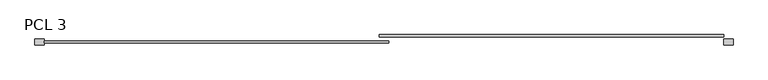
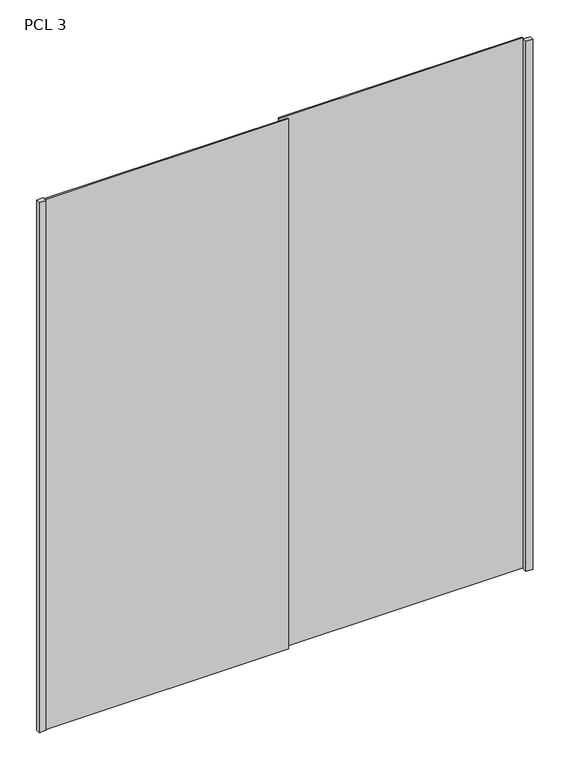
"""IFC4 building model written with IfcOpenShell, lengths in millimetres: furniture geometry, Puerta Closet corre 2 hojas : PCL 3."""

from ifc_helpers import new_model, si_unit, origin, origin_with_axes, place, context, project, spatial, polyline, outline, extrude, source, transform, mapped, element, save


def pcl_3_f21892f4(model_context):
    return source(origin(), model_context, "Body", "SweptSolid", [
        extrude(outline(polyline([(570.0, 80.0), (540.0, 80.0), (540.0, 100.0), (570.0, 100.0), (570.0, 80.0)])), origin_with_axes(), (0.0, 0.0, 1.0), 2520.0),
        extrude(outline(polyline([(540.0, 106.6666667), (-555.0, 106.6666667), (-555.0, 113.3333333), (540.0, 113.3333333), (540.0, 106.6666667)])), origin_with_axes(), (0.0, 0.0, 1.0), 2520.0),
        extrude(outline(polyline([(-525.0, 86.6666667), (-1620.0, 86.6666667), (-1620.0, 93.3333333), (-525.0, 93.3333333), (-525.0, 86.6666667)])), origin_with_axes(), (0.0, 0.0, 1.0), 2520.0),
        extrude(outline(polyline([(-1650.0, 80.0), (-1650.0, 100.0), (-1620.0, 100.0), (-1620.0, 80.0), (-1650.0, 80.0)])), origin_with_axes(), (0.0, 0.0, 1.0), 2520.0),
    ])


if __name__ == "__main__":
    model = new_model("IFC4")
    model_context = context("Model", 3, world=origin())
    ifc_project = project(units=[si_unit("LENGTHUNIT", "METRE", prefix="MILLI")], contexts=[model_context])
    site = spatial("IfcSite", under=ifc_project)
    building = spatial("IfcBuilding", under=site)
    placement = place(None, origin())
    pcl_3_shape = pcl_3_f21892f4(model_context)
    element("IfcFurniture", 1, ObjectType="Puerta Closet corre 2 hojas : PCL 3", at=placement, inside=building, context=model_context, shape_type="MappedRepresentation", body=[
        mapped(pcl_3_shape, transform((0.0, 0.0, 0.0), x_axis=(1.0, 0.0, 0.0), y_axis=(0.0, 1.0, 0.0), z_axis=(0.0, 0.0, 1.0))),
    ])
    save(model, "model.ifc")
